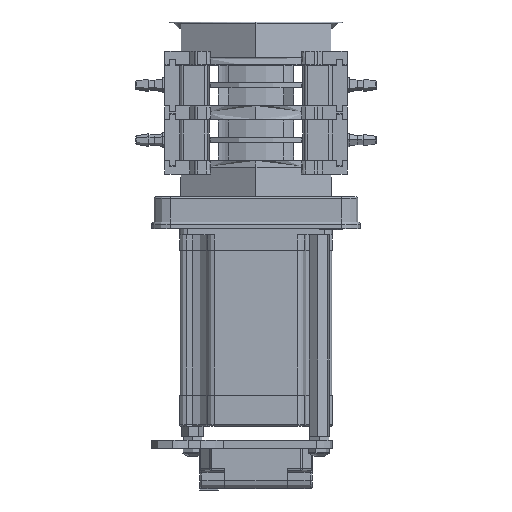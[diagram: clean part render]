
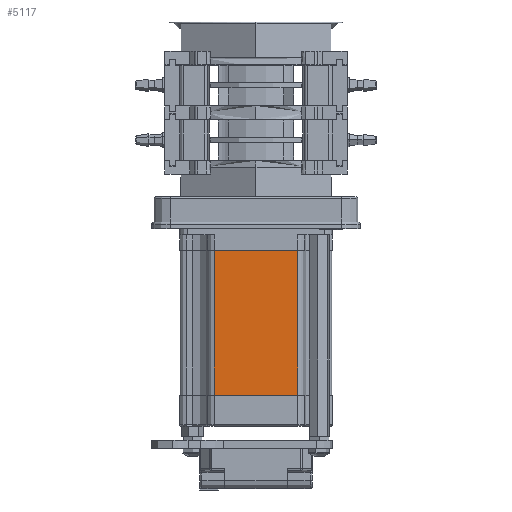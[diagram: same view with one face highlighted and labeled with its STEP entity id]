
A CAD part, left-side view. The second image highlights one B-rep face of the part: STEP entity #5117.
In plain terms, the highlighted planar face has unit normal (-1, 0, 0).
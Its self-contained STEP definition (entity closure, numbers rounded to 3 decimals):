
#1552 = EDGE_CURVE ( 'NONE', #2631, #7941, #28740, .T. ) ;
#2631 = VERTEX_POINT ( 'NONE', #8999 ) ;
#5084 = CARTESIAN_POINT ( 'NONE',  ( -28.3, -15.57, -41.1 ) ) ;
#5091 = CARTESIAN_POINT ( 'NONE',  ( -28.3, 15.57, -41.1 ) ) ;
#5117 = ADVANCED_FACE ( 'NONE', ( #28899 ), #23314, .T. ) ;
#5299 = DIRECTION ( 'NONE',  ( 0., 0., 1. ) ) ;
#6381 = DIRECTION ( 'NONE',  ( 0., 0., -1. ) ) ;
#6453 = ORIENTED_EDGE ( 'NONE', *, *, #36154, .T. ) ;
#7173 = LINE ( 'NONE', #30542, #24719 ) ;
#7941 = VERTEX_POINT ( 'NONE', #14979 ) ;
#8422 = EDGE_CURVE ( 'NONE', #7941, #37389, #7173, .T. ) ;
#8999 = CARTESIAN_POINT ( 'NONE',  ( -28.3, -15.57, -41.1 ) ) ;
#9135 = ORIENTED_EDGE ( 'NONE', *, *, #1552, .F. ) ;
#9758 = LINE ( 'NONE', #5084, #33584 ) ;
#10404 = ORIENTED_EDGE ( 'NONE', *, *, #21088, .T. ) ;
#11371 = DIRECTION ( 'NONE',  ( 0., 1., 0. ) ) ;
#14233 = VECTOR ( 'NONE', #6381, 1000. ) ;
#14409 = ORIENTED_EDGE ( 'NONE', *, *, #8422, .F. ) ;
#14979 = CARTESIAN_POINT ( 'NONE',  ( -28.3, -15.57, -95.1 ) ) ;
#15103 = CARTESIAN_POINT ( 'NONE',  ( -28.3, 15.57, -95.1 ) ) ;
#21088 = EDGE_CURVE ( 'NONE', #29470, #37389, #21514, .T. ) ;
#21218 = AXIS2_PLACEMENT_3D ( 'NONE', #23584, #29682, #5299 ) ;
#21514 = LINE ( 'NONE', #25040, #14233 ) ;
#21873 = VECTOR ( 'NONE', #29816, 1000. ) ;
#23314 = PLANE ( 'NONE',  #21218 ) ;
#23584 = CARTESIAN_POINT ( 'NONE',  ( -28.3, -15.57, 50.01 ) ) ;
#24719 = VECTOR ( 'NONE', #30646, 1000. ) ;
#25040 = CARTESIAN_POINT ( 'NONE',  ( -28.3, 15.57, 50.01 ) ) ;
#28740 = LINE ( 'NONE', #30889, #21873 ) ;
#28899 = FACE_OUTER_BOUND ( 'NONE', #36447, .T. ) ;
#29470 = VERTEX_POINT ( 'NONE', #5091 ) ;
#29682 = DIRECTION ( 'NONE',  ( -1., 0., 0. ) ) ;
#29816 = DIRECTION ( 'NONE',  ( 0., 0., -1. ) ) ;
#30542 = CARTESIAN_POINT ( 'NONE',  ( -28.3, -15.57, -95.1 ) ) ;
#30646 = DIRECTION ( 'NONE',  ( 0., 1., 0. ) ) ;
#30889 = CARTESIAN_POINT ( 'NONE',  ( -28.3, -15.57, 50.01 ) ) ;
#33584 = VECTOR ( 'NONE', #11371, 1000. ) ;
#36154 = EDGE_CURVE ( 'NONE', #2631, #29470, #9758, .T. ) ;
#36447 = EDGE_LOOP ( 'NONE', ( #6453, #10404, #14409, #9135 ) ) ;
#37389 = VERTEX_POINT ( 'NONE', #15103 ) ;
